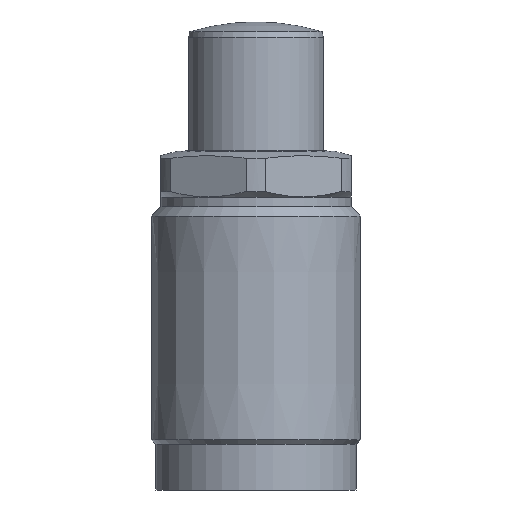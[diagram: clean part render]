
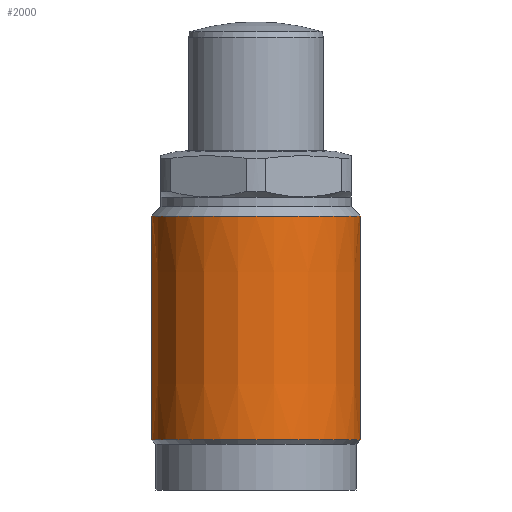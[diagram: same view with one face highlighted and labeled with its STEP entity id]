
A CAD part, front view. The second image highlights one B-rep face of the part: STEP entity #2000.
In plain terms, the highlighted conical face has half-angle 0 degrees and reference radius 27.5 mm.
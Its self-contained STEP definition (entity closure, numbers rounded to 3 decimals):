
#200 = LINE ( 'NONE', #201, #1393 ) ;
#201 = CARTESIAN_POINT ( 'NONE',  ( -27.5, 0., -75.8 ) ) ;
#209 = DIRECTION ( 'NONE',  ( 0., 0., -1. ) ) ;
#350 = VERTEX_POINT ( 'NONE', #506 ) ;
#351 = VERTEX_POINT ( 'NONE', #507 ) ;
#352 = VERTEX_POINT ( 'NONE', #508 ) ;
#354 = VERTEX_POINT ( 'NONE', #510 ) ;
#439 = EDGE_LOOP ( 'NONE', ( #1773, #1772, #1771, #1770 ) ) ;
#506 = CARTESIAN_POINT ( 'NONE',  ( 27.5, 0., -17. ) ) ;
#507 = CARTESIAN_POINT ( 'NONE',  ( 27.5, 0., -75.8 ) ) ;
#508 = CARTESIAN_POINT ( 'NONE',  ( -27.5, 0., -17. ) ) ;
#510 = CARTESIAN_POINT ( 'NONE',  ( -27.5, 0., -75.8 ) ) ;
#582 = AXIS2_PLACEMENT_3D ( 'NONE', #1276, #1277, #1278 ) ;
#980 = DIRECTION ( 'NONE',  ( -1., 0., 0. ) ) ;
#982 = FACE_OUTER_BOUND ( 'NONE', #439, .T. ) ;
#983 = DIRECTION ( 'NONE',  ( 0., 0., -1. ) ) ;
#985 = CARTESIAN_POINT ( 'NONE',  ( 0., 0., -75.8 ) ) ;
#1273 = CARTESIAN_POINT ( 'NONE',  ( 0., 0., -75.8 ) ) ;
#1274 = DIRECTION ( 'NONE',  ( 0., 0., 1. ) ) ;
#1275 = DIRECTION ( 'NONE',  ( 1., 0., 0. ) ) ;
#1276 = CARTESIAN_POINT ( 'NONE',  ( 0., 0., -17. ) ) ;
#1277 = DIRECTION ( 'NONE',  ( 0., 0., 1. ) ) ;
#1278 = DIRECTION ( 'NONE',  ( 1., 0., 0. ) ) ;
#1303 = CARTESIAN_POINT ( 'NONE',  ( 27.5, 0., -75.8 ) ) ;
#1308 = LINE ( 'NONE', #1303, #1337 ) ;
#1312 = DIRECTION ( 'NONE',  ( 0., 0., -1. ) ) ;
#1337 = VECTOR ( 'NONE', #1312, 1000. ) ;
#1393 = VECTOR ( 'NONE', #209, 1000. ) ;
#1472 = CONICAL_SURFACE ( 'NONE', #1473, 27.5, 0. ) ;
#1473 = AXIS2_PLACEMENT_3D ( 'NONE', #985, #983, #980 ) ;
#1674 = EDGE_CURVE ( 'NONE', #354, #351, #1902, .T. ) ;
#1675 = EDGE_CURVE ( 'NONE', #352, #350, #1978, .T. ) ;
#1770 = ORIENTED_EDGE ( 'NONE', *, *, #1674, .T. ) ;
#1771 = ORIENTED_EDGE ( 'NONE', *, *, #1853, .T. ) ;
#1772 = ORIENTED_EDGE ( 'NONE', *, *, #1675, .F. ) ;
#1773 = ORIENTED_EDGE ( 'NONE', *, *, #1794, .F. ) ;
#1789 = AXIS2_PLACEMENT_3D ( 'NONE', #1273, #1274, #1275 ) ;
#1794 = EDGE_CURVE ( 'NONE', #350, #351, #1308, .T. ) ;
#1853 = EDGE_CURVE ( 'NONE', #352, #354, #200, .T. ) ;
#1902 = CIRCLE ( 'NONE', #1789, 27.5 ) ;
#1978 = CIRCLE ( 'NONE', #582, 27.5 ) ;
#2000 = ADVANCED_FACE ( 'NONE', ( #982 ), #1472, .T. ) ;
